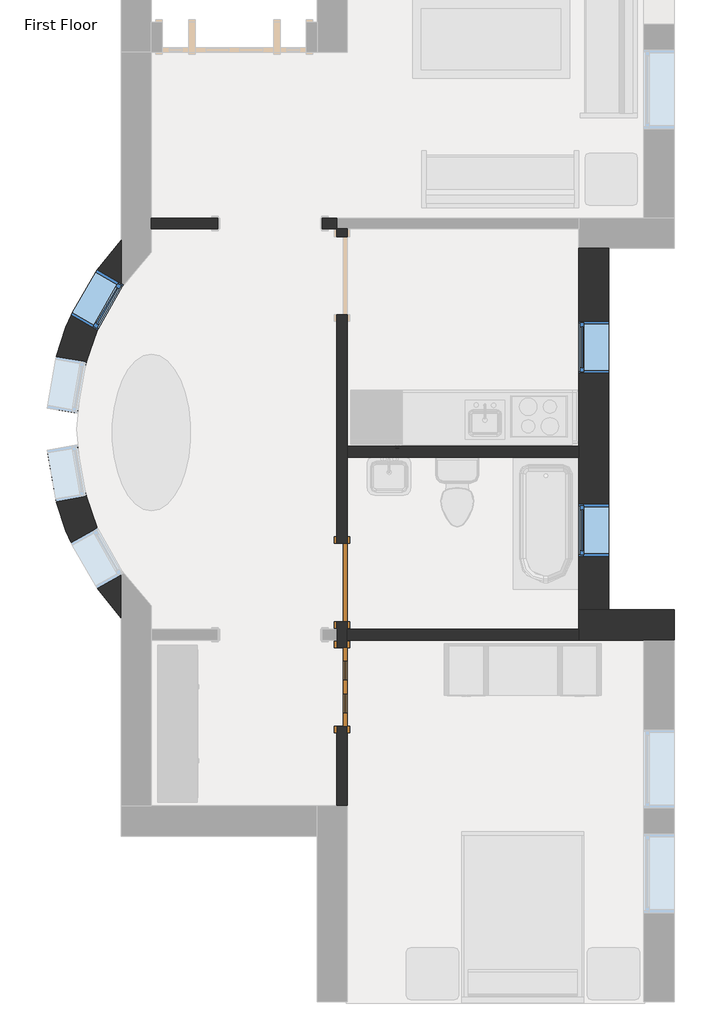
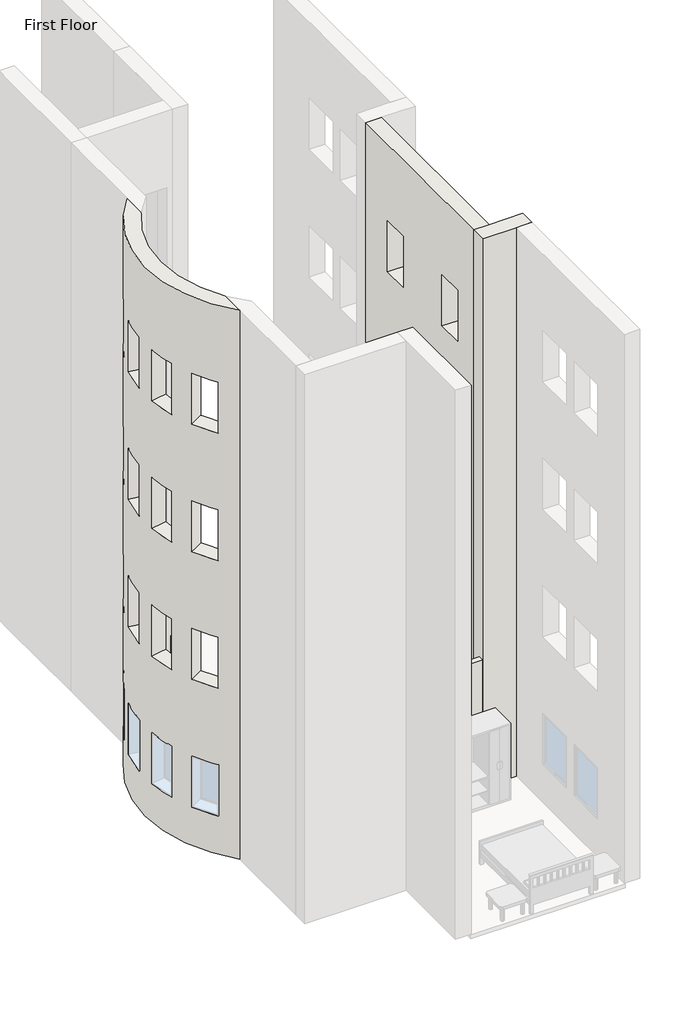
# One storey, part 11 of 21: 7 walls, 3 windows, 2 doors.
"""IFC4 building model written with IfcOpenShell, lengths in millimetres."""

from ifc_helpers import new_model, si_unit, frame, origin, origin_with_axes, place, context, project, spatial, polyline, circle_curve, outline, extrude, faceted_brep, transform, mapped, element, save
from ifc_brep_helpers import plane_surface, cylinder_surface, revolved_surface, advanced_brep
from components import door_829da954, door_a1797ceb, window_60baf983, window_ed80354a

model = new_model("IFC4")

# Units and contexts
model_context = context("Model", 3, world=origin())
ifc_project = project(units=[si_unit("LENGTHUNIT", "METRE", prefix="MILLI")], contexts=[model_context])

# Site, building, storey
site = spatial("IfcSite", under=ifc_project)
building = spatial("IfcBuilding", under=site)
storey = spatial("IfcBuildingStorey", under=building, Name="First Floor", Elevation=0.0)

# Doors
placement = place(None, origin())
door_shape = door_829da954(model_context)
element("IfcDoor", 1, ObjectType="Single-Decorative 2 : 36\" x 84\"", at=placement, inside=storey, context=model_context, shape_type="MappedRepresentation", body=[
    mapped(door_shape, transform((-3900.4589563, -7995.7558133, 0.0), x_axis=(0.0, 1.0, 0.0), y_axis=(-1.0, 0.0, 0.0), z_axis=(0.0, 0.0, 1.0))),
])
door_2_shape = door_a1797ceb(model_context)
element("IfcDoor", 2, ObjectType="Single-Flush : 36\" x 84\"", at=placement, inside=storey, context=model_context, shape_type="MappedRepresentation", body=[
    mapped(door_2_shape, transform((-3900.4589563, -6776.5558133, 0.0), x_axis=(0.0, -1.0, 0.0), y_axis=(1.0, 0.0, 0.0), z_axis=(0.0, 0.0, 1.0))),
])

# Walls
element("IfcWall", 3, ObjectType="Exterior - Brick on Mtl. Stud", at=placement, inside=storey, context=model_context, shape_type="Brep", body=[
    faceted_brep([(-26.9589563, -7097.2308133, 0.0), (-788.9589563, -7097.2308133, 0.0), (-1141.3839563, -7097.2308133, 0.0), (-1141.3839563, -7097.2308133, 13106.4), (-788.9589563, -7097.2308133, 13106.4), (-26.9589563, -7097.2308133, 13106.4), (-26.9589563, -7449.6558133, 0.0), (-26.9589563, -7449.6558133, 13106.4), (-379.3839563, -7449.6558133, 13106.4), (-1141.3839563, -7449.6558133, 13106.4), (-1141.3839563, -7449.6558133, 3048.0), (-1141.3839563, -7449.6558133, 0.0), (-379.3839563, -7449.6558133, 0.0), (-1141.3839563, -7322.6558133, 0.0)], [[[0, 1, 2, 3, 4, 5]], [[6, 7, 8, 9, 10, 11, 12]], [[2, 1, 0, 6, 12, 11, 13]], [[5, 4, 3, 9, 8, 7]], [[0, 5, 7, 6]], [[2, 13, 11, 10, 9, 3]]]),
])
element("IfcWall", 4, ObjectType="Exterior - Brick on Mtl. Stud", at=placement, inside=storey, context=model_context, shape_type="Brep", body=[
    faceted_brep([(-788.9589563, -7097.2308133, 0.0), (-788.9589563, -2877.6558133, 0.0), (-788.9589563, -2877.6558133, 13106.4), (-788.9589563, -7097.2308133, 13106.4), (-788.9589563, -6471.7558133, 8229.6), (-788.9589563, -5862.1558133, 8229.6), (-788.9589563, -5862.1558133, 7010.4), (-788.9589563, -6471.7558133, 7010.4), (-788.9589563, -4338.1558133, 8229.6), (-788.9589563, -3728.5558133, 8229.6), (-788.9589563, -3728.5558133, 7010.4), (-788.9589563, -4338.1558133, 7010.4), (-788.9589563, -6471.7558133, 5181.6), (-788.9589563, -5862.1558133, 5181.6), (-788.9589563, -5862.1558133, 3962.4), (-788.9589563, -6471.7558133, 3962.4), (-788.9589563, -4338.1558133, 5181.6), (-788.9589563, -3728.5558133, 5181.6), (-788.9589563, -3728.5558133, 3962.4), (-788.9589563, -4338.1558133, 3962.4), (-788.9589563, -6471.7558133, 11277.6), (-788.9589563, -5862.1558133, 11277.6), (-788.9589563, -5862.1558133, 10058.4), (-788.9589563, -6471.7558133, 10058.4), (-788.9589563, -4338.1558133, 11277.6), (-788.9589563, -3728.5558133, 11277.6), (-788.9589563, -3728.5558133, 10058.4), (-788.9589563, -4338.1558133, 10058.4), (-788.9589563, -6471.7558133, 2133.6), (-788.9589563, -5862.1558133, 2133.6), (-788.9589563, -5862.1558133, 914.4), (-788.9589563, -6471.7558133, 914.4), (-788.9589563, -4338.1558133, 2133.6), (-788.9589563, -3728.5558133, 2133.6), (-788.9589563, -3728.5558133, 914.4), (-788.9589563, -4338.1558133, 914.4), (-1141.3839563, -7097.2308133, 0.0), (-1141.3839563, -7097.2308133, 13106.4), (-1141.3839563, -2877.6558133, 13106.4), (-1141.3839563, -2877.6558133, 0.0), (-1141.3839563, -5189.0558133, 0.0), (-1141.3839563, -5316.0558133, 0.0), (-1141.3839563, -6471.7558133, 8229.6), (-1141.3839563, -6471.7558133, 7010.4), (-1141.3839563, -5862.1558133, 7010.4), (-1141.3839563, -5862.1558133, 8229.6), (-1141.3839563, -4338.1558133, 8229.6), (-1141.3839563, -4338.1558133, 7010.4), (-1141.3839563, -3728.5558133, 7010.4), (-1141.3839563, -3728.5558133, 8229.6), (-1141.3839563, -6471.7558133, 5181.6), (-1141.3839563, -6471.7558133, 3962.4), (-1141.3839563, -5862.1558133, 3962.4), (-1141.3839563, -5862.1558133, 5181.6), (-1141.3839563, -4338.1558133, 5181.6), (-1141.3839563, -4338.1558133, 3962.4), (-1141.3839563, -3728.5558133, 3962.4), (-1141.3839563, -3728.5558133, 5181.6), (-1141.3839563, -6471.7558133, 11277.6), (-1141.3839563, -6471.7558133, 10058.4), (-1141.3839563, -5862.1558133, 10058.4), (-1141.3839563, -5862.1558133, 11277.6), (-1141.3839563, -4338.1558133, 11277.6), (-1141.3839563, -4338.1558133, 10058.4), (-1141.3839563, -3728.5558133, 10058.4), (-1141.3839563, -3728.5558133, 11277.6), (-1141.3839563, -6471.7558133, 2133.6), (-1141.3839563, -6471.7558133, 914.4), (-1141.3839563, -5862.1558133, 914.4), (-1141.3839563, -5862.1558133, 2133.6), (-1141.3839563, -4338.1558133, 2133.6), (-1141.3839563, -4338.1558133, 914.4), (-1141.3839563, -3728.5558133, 914.4), (-1141.3839563, -3728.5558133, 2133.6)], [[[0, 1, 2, 3], [4, 5, 6, 7], [8, 9, 10, 11], [12, 13, 14, 15], [16, 17, 18, 19], [20, 21, 22, 23], [24, 25, 26, 27], [28, 29, 30, 31], [32, 33, 34, 35]], [[36, 37, 38, 39, 40, 41], [42, 43, 44, 45], [46, 47, 48, 49], [50, 51, 52, 53], [54, 55, 56, 57], [58, 59, 60, 61], [62, 63, 64, 65], [66, 67, 68, 69], [70, 71, 72, 73]], [[1, 0, 36, 41, 40, 39]], [[3, 2, 38, 37]], [[0, 3, 37, 36]], [[2, 1, 39, 38]], [[43, 42, 4, 7]], [[44, 43, 7, 6]], [[45, 44, 6, 5]], [[42, 45, 5, 4]], [[47, 46, 8, 11]], [[48, 47, 11, 10]], [[49, 48, 10, 9]], [[46, 49, 9, 8]], [[51, 50, 12, 15]], [[52, 51, 15, 14]], [[53, 52, 14, 13]], [[50, 53, 13, 12]], [[55, 54, 16, 19]], [[56, 55, 19, 18]], [[57, 56, 18, 17]], [[54, 57, 17, 16]], [[59, 58, 20, 23]], [[60, 59, 23, 22]], [[61, 60, 22, 21]], [[58, 61, 21, 20]], [[63, 62, 24, 27]], [[64, 63, 27, 26]], [[65, 64, 26, 25]], [[62, 65, 25, 24]], [[67, 66, 28, 31]], [[68, 67, 31, 30]], [[69, 68, 30, 29]], [[66, 69, 29, 28]], [[71, 70, 32, 35]], [[72, 71, 35, 34]], [[73, 72, 34, 33]], [[70, 73, 33, 32]]]),
])
element("IfcWall", 5, ObjectType="Exterior - Brick on Mtl. Stud", at=placement, inside=storey, context=model_context, shape_type="AdvancedBrep", body=[
    advanced_brep(
    [(-6475.3839563, -2783.0580793, 13106.4), (-6475.3839563, -7191.8285473, 13106.4), (-6475.3839563, -6633.9339631, 13106.4), (-6475.3839563, -3340.9526635, 13106.4), (-6475.3839563, -7191.8285473, 0.0), (-6475.3839563, -2783.0580793, 0.0), (-6475.3839563, -3340.9526635, 0.0), (-6475.3839563, -6633.9339631, 0.0), (-7060.4709271, -6315.4726656, 914.4), (-7060.4709271, -6315.4726656, 2133.6), (-6757.9928429, -6844.7355195, 2133.6), (-6757.9928429, -6844.7355195, 914.4), (-7060.4709271, -3659.4139611, 2133.6), (-7060.4709271, -3659.4139611, 914.4), (-6757.9928429, -3130.1511071, 914.4), (-6757.9928429, -3130.1511071, 2133.6), (-7060.4709271, -6315.4726656, 10058.4), (-7060.4709271, -6315.4726656, 11277.6), (-6757.9928429, -6844.7355195, 11277.6), (-6757.9928429, -6844.7355195, 10058.4), (-7060.4709271, -3659.4139611, 11277.6), (-7060.4709271, -3659.4139611, 10058.4), (-6757.9928429, -3130.1511071, 10058.4), (-6757.9928429, -3130.1511071, 11277.6), (-7060.4709271, -6315.4726656, 3962.4), (-7060.4709271, -6315.4726656, 5181.6), (-6757.9928429, -6844.7355195, 5181.6), (-6757.9928429, -6844.7355195, 3962.4), (-7060.4709271, -3659.4139611, 5181.6), (-7060.4709271, -3659.4139611, 3962.4), (-6757.9928429, -3130.1511071, 3962.4), (-6757.9928429, -3130.1511071, 5181.6), (-7060.4709271, -6315.4726656, 7010.4), (-7060.4709271, -6315.4726656, 8229.6), (-6757.9928429, -6844.7355195, 8229.6), (-6757.9928429, -6844.7355195, 7010.4), (-7060.4709271, -3659.4139611, 8229.6), (-7060.4709271, -3659.4139611, 7010.4), (-6757.9928429, -3130.1511071, 7010.4), (-6757.9928429, -3130.1511071, 8229.6), (-7337.3984091, -4743.0185836, 8229.6), (-7337.3984091, -4743.0185836, 7010.4), (-7233.9296032, -4142.2637532, 7010.4), (-7233.9296032, -4142.2637532, 8229.6), (-7337.3984091, -5231.8680431, 8229.6), (-7233.9296032, -5832.6228734, 8229.6), (-7233.9296032, -5832.6228734, 7010.4), (-7337.3984091, -5231.8680431, 7010.4), (-7337.3984091, -4743.0185836, 5181.6), (-7337.3984091, -4743.0185836, 3962.4), (-7233.9296032, -4142.2637532, 3962.4), (-7233.9296032, -4142.2637532, 5181.6), (-7337.3984091, -5231.8680431, 5181.6), (-7233.9296032, -5832.6228734, 5181.6), (-7233.9296032, -5832.6228734, 3962.4), (-7337.3984091, -5231.8680431, 3962.4), (-7337.3984091, -4743.0185836, 11277.6), (-7337.3984091, -4743.0185836, 10058.4), (-7233.9296032, -4142.2637532, 10058.4), (-7233.9296032, -4142.2637532, 11277.6), (-7337.3984091, -5231.8680431, 11277.6), (-7233.9296032, -5832.6228734, 11277.6), (-7233.9296032, -5832.6228734, 10058.4), (-7337.3984091, -5231.8680431, 10058.4), (-7337.3984091, -4743.0185836, 2133.6), (-7337.3984091, -4743.0185836, 914.4), (-7233.9296032, -4142.2637532, 914.4), (-7233.9296032, -4142.2637532, 2133.6), (-7337.3984091, -5231.8680431, 2133.6), (-7233.9296032, -5832.6228734, 2133.6), (-7233.9296032, -5832.6228734, 914.4), (-7337.3984091, -5231.8680431, 914.4), (-6475.3839563, -6633.9339631, 11277.6), (-6752.944107, -6139.7185526, 11277.6), (-6752.944107, -6139.7185526, 10058.4), (-6475.3839563, -6633.9339631, 10058.4), (-6475.3839563, -6633.9339631, 8229.6), (-6752.944107, -6139.7185526, 8229.6), (-6752.944107, -6139.7185526, 7010.4), (-6475.3839563, -6633.9339631, 7010.4), (-6475.3839563, -6633.9339631, 5181.6), (-6752.944107, -6139.7185526, 5181.6), (-6752.944107, -6139.7185526, 3962.4), (-6475.3839563, -6633.9339631, 3962.4), (-6475.3839563, -6633.9339631, 2133.6), (-6752.944107, -6139.7185526, 2133.6), (-6752.944107, -6139.7185526, 914.4), (-6475.3839563, -6633.9339631, 914.4), (-6475.3839563, -3340.9526635, 914.4), (-6752.944107, -3835.168074, 914.4), (-6752.944107, -3835.168074, 2133.6), (-6475.3839563, -3340.9526635, 2133.6), (-6475.3839563, -3340.9526635, 3962.4), (-6752.944107, -3835.168074, 3962.4), (-6752.944107, -3835.168074, 5181.6), (-6475.3839563, -3340.9526635, 5181.6), (-6475.3839563, -3340.9526635, 7010.4), (-6752.944107, -3835.168074, 7010.4), (-6752.944107, -3835.168074, 8229.6), (-6475.3839563, -3340.9526635, 8229.6), (-6475.3839563, -3340.9526635, 10058.4), (-6752.944107, -3835.168074, 10058.4), (-6752.944107, -3835.168074, 11277.6), (-6475.3839563, -3340.9526635, 11277.6), (-6988.33136, -4803.1388671, 8229.6), (-6884.862554, -4202.3840368, 8229.6), (-6884.862554, -4202.3840368, 7010.4), (-6988.33136, -4803.1388671, 7010.4), (-6988.33136, -5171.7477595, 8229.6), (-6988.33136, -5171.7477595, 7010.4), (-6884.862554, -5772.5025899, 7010.4), (-6884.862554, -5772.5025899, 8229.6), (-6988.33136, -4803.1388671, 5181.6), (-6884.862554, -4202.3840368, 5181.6), (-6884.862554, -4202.3840368, 3962.4), (-6988.33136, -4803.1388671, 3962.4), (-6988.33136, -5171.7477595, 5181.6), (-6988.33136, -5171.7477595, 3962.4), (-6884.862554, -5772.5025899, 3962.4), (-6884.862554, -5772.5025899, 5181.6), (-6988.33136, -4803.1388671, 11277.6), (-6884.862554, -4202.3840368, 11277.6), (-6884.862554, -4202.3840368, 10058.4), (-6988.33136, -4803.1388671, 10058.4), (-6988.33136, -5171.7477595, 11277.6), (-6988.33136, -5171.7477595, 10058.4), (-6884.862554, -5772.5025899, 10058.4), (-6884.862554, -5772.5025899, 11277.6), (-6988.33136, -4803.1388671, 2133.6), (-6884.862554, -4202.3840368, 2133.6), (-6884.862554, -4202.3840368, 914.4), (-6988.33136, -4803.1388671, 914.4), (-6988.33136, -5171.7477595, 2133.6), (-6988.33136, -5171.7477595, 914.4), (-6884.862554, -5772.5025899, 914.4), (-6884.862554, -5772.5025899, 2133.6), (-6475.3839563, -3291.6644156, 11277.6), (-6475.3839563, -3291.6644156, 10058.4), (-6475.3839563, -3291.6644156, 8229.6), (-6475.3839563, -3291.6644156, 7010.4), (-6475.3839563, -3291.6644156, 5181.6), (-6475.3839563, -3291.6644156, 3962.4), (-6475.3839563, -3291.6644156, 2133.6), (-6475.3839563, -3291.6644156, 914.4), (-6475.3839563, -6683.222211, 914.4), (-6475.3839563, -6683.222211, 2133.6), (-6475.3839563, -6683.222211, 3962.4), (-6475.3839563, -6683.222211, 5181.6), (-6475.3839563, -6683.222211, 7010.4), (-6475.3839563, -6683.222211, 8229.6), (-6475.3839563, -6683.222211, 10058.4), (-6475.3839563, -6683.222211, 11277.6)],
    [
        (0, 1, circle_curve(frame((-4122.4640713, -4987.4433133, 13106.4), z_axis=(0.0, 0.0, 1.0), x_axis=(0.0, 1.0, 0.0)), 3224.2125)),
        (1, 2),
        (2, 3, circle_curve(frame((-4122.4640713, -4987.4433133, 13106.4), z_axis=(0.0, 0.0, -1.0), x_axis=(0.0, 1.0, 0.0)), 2871.7875)),
        (3, 0),
        (4, 5, circle_curve(frame((-4122.4640713, -4987.4433133, 0.0), z_axis=(0.0, 0.0, -1.0), x_axis=(0.0, 1.0, 0.0)), 3224.2125)),
        (5, 6),
        (6, 7, circle_curve(frame((-4122.4640713, -4987.4433133, 0.0), z_axis=(0.0, 0.0, 1.0), x_axis=(0.0, 1.0, 0.0)), 2871.7875)),
        (7, 4),
        (0, 5),
        (4, 1),
        (8, 9),
        (9, 10, circle_curve(frame((-4122.4640713, -4987.4433133, 2133.6), z_axis=(0.0, 0.0, 1.0), x_axis=(0.0, 1.0, 0.0)), 3224.2125)),
        (10, 11),
        (11, 8, circle_curve(frame((-4122.4640713, -4987.4433133, 914.4), z_axis=(0.0, 0.0, -1.0), x_axis=(0.0, 1.0, 0.0)), 3224.2125)),
        (12, 13),
        (13, 14, circle_curve(frame((-4122.4640713, -4987.4433133, 914.4), z_axis=(0.0, 0.0, -1.0), x_axis=(0.0, 1.0, 0.0)), 3224.2125)),
        (14, 15),
        (15, 12, circle_curve(frame((-4122.4640713, -4987.4433133, 2133.6), z_axis=(0.0, 0.0, 1.0), x_axis=(0.0, 1.0, 0.0)), 3224.2125)),
        (16, 17),
        (17, 18, circle_curve(frame((-4122.4640713, -4987.4433133, 11277.6), z_axis=(0.0, 0.0, 1.0), x_axis=(0.0, 1.0, 0.0)), 3224.2125)),
        (18, 19),
        (19, 16, circle_curve(frame((-4122.4640713, -4987.4433133, 10058.4), z_axis=(0.0, 0.0, -1.0), x_axis=(0.0, 1.0, 0.0)), 3224.2125)),
        (20, 21),
        (21, 22, circle_curve(frame((-4122.4640713, -4987.4433133, 10058.4), z_axis=(0.0, 0.0, -1.0), x_axis=(0.0, 1.0, 0.0)), 3224.2125)),
        (22, 23),
        (23, 20, circle_curve(frame((-4122.4640713, -4987.4433133, 11277.6), z_axis=(0.0, 0.0, 1.0), x_axis=(0.0, 1.0, 0.0)), 3224.2125)),
        (24, 25),
        (25, 26, circle_curve(frame((-4122.4640713, -4987.4433133, 5181.6), z_axis=(0.0, 0.0, 1.0), x_axis=(0.0, 1.0, 0.0)), 3224.2125)),
        (26, 27),
        (27, 24, circle_curve(frame((-4122.4640713, -4987.4433133, 3962.4), z_axis=(0.0, 0.0, -1.0), x_axis=(0.0, 1.0, 0.0)), 3224.2125)),
        (28, 29),
        (29, 30, circle_curve(frame((-4122.4640713, -4987.4433133, 3962.4), z_axis=(0.0, 0.0, -1.0), x_axis=(0.0, 1.0, 0.0)), 3224.2125)),
        (30, 31),
        (31, 28, circle_curve(frame((-4122.4640713, -4987.4433133, 5181.6), z_axis=(0.0, 0.0, 1.0), x_axis=(0.0, 1.0, 0.0)), 3224.2125)),
        (32, 33),
        (33, 34, circle_curve(frame((-4122.4640713, -4987.4433133, 8229.6), z_axis=(0.0, 0.0, 1.0), x_axis=(0.0, 1.0, 0.0)), 3224.2125)),
        (34, 35),
        (35, 32, circle_curve(frame((-4122.4640713, -4987.4433133, 7010.4), z_axis=(0.0, 0.0, -1.0), x_axis=(0.0, 1.0, 0.0)), 3224.2125)),
        (36, 37),
        (37, 38, circle_curve(frame((-4122.4640713, -4987.4433133, 7010.4), z_axis=(0.0, 0.0, -1.0), x_axis=(0.0, 1.0, 0.0)), 3224.2125)),
        (38, 39),
        (39, 36, circle_curve(frame((-4122.4640713, -4987.4433133, 8229.6), z_axis=(0.0, 0.0, 1.0), x_axis=(0.0, 1.0, 0.0)), 3224.2125)),
        (40, 41),
        (41, 42, circle_curve(frame((-4122.4640713, -4987.4433133, 7010.4), z_axis=(0.0, 0.0, -1.0), x_axis=(0.0, 1.0, 0.0)), 3224.2125)),
        (42, 43),
        (43, 40, circle_curve(frame((-4122.4640713, -4987.4433133, 8229.6), z_axis=(0.0, 0.0, 1.0), x_axis=(0.0, 1.0, 0.0)), 3224.2125)),
        (44, 45, circle_curve(frame((-4122.4640713, -4987.4433133, 8229.6), z_axis=(0.0, 0.0, 1.0), x_axis=(0.0, 1.0, 0.0)), 3224.2125)),
        (45, 46),
        (46, 47, circle_curve(frame((-4122.4640713, -4987.4433133, 7010.4), z_axis=(0.0, 0.0, -1.0), x_axis=(0.0, 1.0, 0.0)), 3224.2125)),
        (47, 44),
        (48, 49),
        (49, 50, circle_curve(frame((-4122.4640713, -4987.4433133, 3962.4), z_axis=(0.0, 0.0, -1.0), x_axis=(0.0, 1.0, 0.0)), 3224.2125)),
        (50, 51),
        (51, 48, circle_curve(frame((-4122.4640713, -4987.4433133, 5181.6), z_axis=(0.0, 0.0, 1.0), x_axis=(0.0, 1.0, 0.0)), 3224.2125)),
        (52, 53, circle_curve(frame((-4122.4640713, -4987.4433133, 5181.6), z_axis=(0.0, 0.0, 1.0), x_axis=(0.0, 1.0, 0.0)), 3224.2125)),
        (53, 54),
        (54, 55, circle_curve(frame((-4122.4640713, -4987.4433133, 3962.4), z_axis=(0.0, 0.0, -1.0), x_axis=(0.0, 1.0, 0.0)), 3224.2125)),
        (55, 52),
        (56, 57),
        (57, 58, circle_curve(frame((-4122.4640713, -4987.4433133, 10058.4), z_axis=(0.0, 0.0, -1.0), x_axis=(0.0, 1.0, 0.0)), 3224.2125)),
        (58, 59),
        (59, 56, circle_curve(frame((-4122.4640713, -4987.4433133, 11277.6), z_axis=(0.0, 0.0, 1.0), x_axis=(0.0, 1.0, 0.0)), 3224.2125)),
        (60, 61, circle_curve(frame((-4122.4640713, -4987.4433133, 11277.6), z_axis=(0.0, 0.0, 1.0), x_axis=(0.0, 1.0, 0.0)), 3224.2125)),
        (61, 62),
        (62, 63, circle_curve(frame((-4122.4640713, -4987.4433133, 10058.4), z_axis=(0.0, 0.0, -1.0), x_axis=(0.0, 1.0, 0.0)), 3224.2125)),
        (63, 60),
        (64, 65),
        (65, 66, circle_curve(frame((-4122.4640713, -4987.4433133, 914.4), z_axis=(0.0, 0.0, -1.0), x_axis=(0.0, 1.0, 0.0)), 3224.2125)),
        (66, 67),
        (67, 64, circle_curve(frame((-4122.4640713, -4987.4433133, 2133.6), z_axis=(0.0, 0.0, 1.0), x_axis=(0.0, 1.0, 0.0)), 3224.2125)),
        (68, 69, circle_curve(frame((-4122.4640713, -4987.4433133, 2133.6), z_axis=(0.0, 0.0, 1.0), x_axis=(0.0, 1.0, 0.0)), 3224.2125)),
        (69, 70),
        (70, 71, circle_curve(frame((-4122.4640713, -4987.4433133, 914.4), z_axis=(0.0, 0.0, -1.0), x_axis=(0.0, 1.0, 0.0)), 3224.2125)),
        (71, 68),
        (2, 72),
        (72, 73, circle_curve(frame((-4122.4640713, -4987.4433133, 11277.6), z_axis=(0.0, 0.0, -1.0), x_axis=(0.0, 1.0, 0.0)), 2871.7875)),
        (73, 74),
        (74, 75, circle_curve(frame((-4122.4640713, -4987.4433133, 10058.4), z_axis=(0.0, 0.0, 1.0), x_axis=(0.0, 1.0, 0.0)), 2871.7875)),
        (75, 76),
        (76, 77, circle_curve(frame((-4122.4640713, -4987.4433133, 8229.6), z_axis=(0.0, 0.0, -1.0), x_axis=(0.0, 1.0, 0.0)), 2871.7875)),
        (77, 78),
        (78, 79, circle_curve(frame((-4122.4640713, -4987.4433133, 7010.4), z_axis=(0.0, 0.0, 1.0), x_axis=(0.0, 1.0, 0.0)), 2871.7875)),
        (79, 80),
        (80, 81, circle_curve(frame((-4122.4640713, -4987.4433133, 5181.6), z_axis=(0.0, 0.0, -1.0), x_axis=(0.0, 1.0, 0.0)), 2871.7875)),
        (81, 82),
        (82, 83, circle_curve(frame((-4122.4640713, -4987.4433133, 3962.4), z_axis=(0.0, 0.0, 1.0), x_axis=(0.0, 1.0, 0.0)), 2871.7875)),
        (83, 84),
        (84, 85, circle_curve(frame((-4122.4640713, -4987.4433133, 2133.6), z_axis=(0.0, 0.0, -1.0), x_axis=(0.0, 1.0, 0.0)), 2871.7875)),
        (85, 86),
        (86, 87, circle_curve(frame((-4122.4640713, -4987.4433133, 914.4), z_axis=(0.0, 0.0, 1.0), x_axis=(0.0, 1.0, 0.0)), 2871.7875)),
        (87, 7),
        (6, 88),
        (88, 89, circle_curve(frame((-4122.4640713, -4987.4433133, 914.4), z_axis=(0.0, 0.0, 1.0), x_axis=(0.0, 1.0, 0.0)), 2871.7875)),
        (89, 90),
        (90, 91, circle_curve(frame((-4122.4640713, -4987.4433133, 2133.6), z_axis=(0.0, 0.0, -1.0), x_axis=(0.0, 1.0, 0.0)), 2871.7875)),
        (91, 92),
        (92, 93, circle_curve(frame((-4122.4640713, -4987.4433133, 3962.4), z_axis=(0.0, 0.0, 1.0), x_axis=(0.0, 1.0, 0.0)), 2871.7875)),
        (93, 94),
        (94, 95, circle_curve(frame((-4122.4640713, -4987.4433133, 5181.6), z_axis=(0.0, 0.0, -1.0), x_axis=(0.0, 1.0, 0.0)), 2871.7875)),
        (95, 96),
        (96, 97, circle_curve(frame((-4122.4640713, -4987.4433133, 7010.4), z_axis=(0.0, 0.0, 1.0), x_axis=(0.0, 1.0, 0.0)), 2871.7875)),
        (97, 98),
        (98, 99, circle_curve(frame((-4122.4640713, -4987.4433133, 8229.6), z_axis=(0.0, 0.0, -1.0), x_axis=(0.0, 1.0, 0.0)), 2871.7875)),
        (99, 100),
        (100, 101, circle_curve(frame((-4122.4640713, -4987.4433133, 10058.4), z_axis=(0.0, 0.0, 1.0), x_axis=(0.0, 1.0, 0.0)), 2871.7875)),
        (101, 102),
        (102, 103, circle_curve(frame((-4122.4640713, -4987.4433133, 11277.6), z_axis=(0.0, 0.0, -1.0), x_axis=(0.0, 1.0, 0.0)), 2871.7875)),
        (103, 3),
        (104, 105, circle_curve(frame((-4122.4640713, -4987.4433133, 8229.6), z_axis=(0.0, 0.0, -1.0), x_axis=(0.0, 1.0, 0.0)), 2871.7875)),
        (105, 106),
        (106, 107, circle_curve(frame((-4122.4640713, -4987.4433133, 7010.4), z_axis=(0.0, 0.0, 1.0), x_axis=(0.0, 1.0, 0.0)), 2871.7875)),
        (107, 104),
        (108, 109),
        (109, 110, circle_curve(frame((-4122.4640713, -4987.4433133, 7010.4), z_axis=(0.0, 0.0, 1.0), x_axis=(0.0, 1.0, 0.0)), 2871.7875)),
        (110, 111),
        (111, 108, circle_curve(frame((-4122.4640713, -4987.4433133, 8229.6), z_axis=(0.0, 0.0, -1.0), x_axis=(0.0, 1.0, 0.0)), 2871.7875)),
        (112, 113, circle_curve(frame((-4122.4640713, -4987.4433133, 5181.6), z_axis=(0.0, 0.0, -1.0), x_axis=(0.0, 1.0, 0.0)), 2871.7875)),
        (113, 114),
        (114, 115, circle_curve(frame((-4122.4640713, -4987.4433133, 3962.4), z_axis=(0.0, 0.0, 1.0), x_axis=(0.0, 1.0, 0.0)), 2871.7875)),
        (115, 112),
        (116, 117),
        (117, 118, circle_curve(frame((-4122.4640713, -4987.4433133, 3962.4), z_axis=(0.0, 0.0, 1.0), x_axis=(0.0, 1.0, 0.0)), 2871.7875)),
        (118, 119),
        (119, 116, circle_curve(frame((-4122.4640713, -4987.4433133, 5181.6), z_axis=(0.0, 0.0, -1.0), x_axis=(0.0, 1.0, 0.0)), 2871.7875)),
        (120, 121, circle_curve(frame((-4122.4640713, -4987.4433133, 11277.6), z_axis=(0.0, 0.0, -1.0), x_axis=(0.0, 1.0, 0.0)), 2871.7875)),
        (121, 122),
        (122, 123, circle_curve(frame((-4122.4640713, -4987.4433133, 10058.4), z_axis=(0.0, 0.0, 1.0), x_axis=(0.0, 1.0, 0.0)), 2871.7875)),
        (123, 120),
        (124, 125),
        (125, 126, circle_curve(frame((-4122.4640713, -4987.4433133, 10058.4), z_axis=(0.0, 0.0, 1.0), x_axis=(0.0, 1.0, 0.0)), 2871.7875)),
        (126, 127),
        (127, 124, circle_curve(frame((-4122.4640713, -4987.4433133, 11277.6), z_axis=(0.0, 0.0, -1.0), x_axis=(0.0, 1.0, 0.0)), 2871.7875)),
        (128, 129, circle_curve(frame((-4122.4640713, -4987.4433133, 2133.6), z_axis=(0.0, 0.0, -1.0), x_axis=(0.0, 1.0, 0.0)), 2871.7875)),
        (129, 130),
        (130, 131, circle_curve(frame((-4122.4640713, -4987.4433133, 914.4), z_axis=(0.0, 0.0, 1.0), x_axis=(0.0, 1.0, 0.0)), 2871.7875)),
        (131, 128),
        (132, 133),
        (133, 134, circle_curve(frame((-4122.4640713, -4987.4433133, 914.4), z_axis=(0.0, 0.0, 1.0), x_axis=(0.0, 1.0, 0.0)), 2871.7875)),
        (134, 135),
        (135, 132, circle_curve(frame((-4122.4640713, -4987.4433133, 2133.6), z_axis=(0.0, 0.0, -1.0), x_axis=(0.0, 1.0, 0.0)), 2871.7875)),
        (103, 136),
        (136, 137),
        (137, 100),
        (99, 138),
        (138, 139),
        (139, 96),
        (95, 140),
        (140, 141),
        (141, 92),
        (91, 142),
        (142, 143),
        (143, 88),
        (87, 144),
        (144, 145),
        (145, 84),
        (83, 146),
        (146, 147),
        (147, 80),
        (79, 148),
        (148, 149),
        (149, 76),
        (75, 150),
        (150, 151),
        (151, 72),
        (85, 9),
        (8, 86),
        (11, 144),
        (10, 145),
        (12, 90),
        (89, 13),
        (143, 14),
        (142, 15),
        (73, 17),
        (16, 74),
        (19, 150),
        (18, 151),
        (20, 102),
        (101, 21),
        (137, 22),
        (136, 23),
        (81, 25),
        (24, 82),
        (27, 146),
        (26, 147),
        (28, 94),
        (93, 29),
        (141, 30),
        (140, 31),
        (77, 33),
        (32, 78),
        (35, 148),
        (34, 149),
        (36, 98),
        (97, 37),
        (139, 38),
        (138, 39),
        (40, 104),
        (107, 41),
        (106, 42),
        (105, 43),
        (108, 44),
        (47, 109),
        (46, 110),
        (45, 111),
        (48, 112),
        (115, 49),
        (114, 50),
        (113, 51),
        (116, 52),
        (55, 117),
        (54, 118),
        (53, 119),
        (56, 120),
        (123, 57),
        (122, 58),
        (121, 59),
        (124, 60),
        (63, 125),
        (62, 126),
        (61, 127),
        (64, 128),
        (131, 65),
        (130, 66),
        (129, 67),
        (132, 68),
        (71, 133),
        (70, 134),
        (69, 135),
    ],
    [
        plane_surface(frame((-4122.4640713, -1763.2308133, 13106.4), z_axis=(0.0, 0.0, 1.0), x_axis=(-1.0, 0.0, 0.0))),
        plane_surface(frame((-4122.4640713, -1763.2308133, 0.0), z_axis=(0.0, 0.0, -1.0), x_axis=(1.0, 0.0, 0.0))),
        cylinder_surface(frame((-4122.4640713, -4987.4433133, 0.0), z_axis=(0.0, 0.0, 1.0), x_axis=(0.0, 1.0, 0.0)), 3224.2125),
        revolved_surface(polyline([(-4122.4640713, -2115.6558133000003, 0.0), (-4122.4640713, -2115.6558133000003, 13106.4)]), (-4122.4640713, -4987.4433133, 0.0), (0.0, 0.0, -1.0)),
        plane_surface(frame((-6475.3839563, -415.4433133, 0.0), z_axis=(1.0, 0.0, 0.0), x_axis=(0.0, -1.0, 0.0))),
        plane_surface(frame((-6475.3839563, -9559.4433133, 0.0), z_axis=(1.0, 0.0, 0.0), x_axis=(0.0, -1.0, 0.0))),
        plane_surface(frame((-8383.628062, -7071.6678761, 2133.6), z_axis=(0.49619108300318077, -0.8682133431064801, 0.0), x_axis=(0.8682133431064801, 0.49619108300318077, 0.0))),
        plane_surface(frame((-8383.628062, -7071.6678761, 914.4), z_axis=(0.0, 0.0, 1.0), x_axis=(0.8682133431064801, 0.49619108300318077, 0.0))),
        plane_surface(frame((-8081.1499778, -7600.93073, 914.4), z_axis=(-0.49619108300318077, 0.8682133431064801, 0.0), x_axis=(0.8682133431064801, 0.49619108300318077, 0.0))),
        plane_surface(frame((-8081.1499778, -7600.93073, 2133.6), z_axis=(0.0, 0.0, -1.0), x_axis=(0.8682133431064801, 0.49619108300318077, 0.0))),
        plane_surface(frame((-5737.3137922, -4415.6091716, 2133.6), z_axis=(0.4961910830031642, 0.8682133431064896, 0.0), x_axis=(-0.8682133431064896, 0.4961910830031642, 0.0))),
        plane_surface(frame((-5737.3137922, -4415.6091716, 914.4), z_axis=(0.0, 0.0, 1.0), x_axis=(-0.8682133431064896, 0.4961910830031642, 0.0))),
        plane_surface(frame((-5434.835708, -3886.3463176, 914.4), z_axis=(-0.49619108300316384, -0.8682133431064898, 0.0), x_axis=(-0.8682133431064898, 0.49619108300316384, 0.0))),
        plane_surface(frame((-5434.835708, -3886.3463176, 2133.6), z_axis=(0.0, 0.0, -1.0), x_axis=(-0.8682133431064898, 0.49619108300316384, 0.0))),
        plane_surface(frame((-8383.628062, -7071.6678761, 11277.6), z_axis=(0.4961910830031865, -0.8682133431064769, 0.0), x_axis=(0.8682133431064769, 0.4961910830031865, 0.0))),
        plane_surface(frame((-8383.628062, -7071.6678761, 10058.4), z_axis=(0.0, 0.0, 1.0), x_axis=(0.8682133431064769, 0.4961910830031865, 0.0))),
        plane_surface(frame((-8081.1499778, -7600.93073, 10058.4), z_axis=(-0.4961910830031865, 0.8682133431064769, 0.0), x_axis=(0.8682133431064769, 0.4961910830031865, 0.0))),
        plane_surface(frame((-8081.1499778, -7600.93073, 11277.6), z_axis=(0.0, 0.0, -1.0), x_axis=(0.8682133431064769, 0.4961910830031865, 0.0))),
        plane_surface(frame((-5737.3137922, -4415.6091716, 11277.6), z_axis=(0.4961910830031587, 0.8682133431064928, 0.0), x_axis=(-0.8682133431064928, 0.4961910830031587, 0.0))),
        plane_surface(frame((-5737.3137922, -4415.6091716, 10058.4), z_axis=(0.0, 0.0, 1.0), x_axis=(-0.8682133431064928, 0.4961910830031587, 0.0))),
        plane_surface(frame((-5434.835708, -3886.3463176, 10058.4), z_axis=(-0.4961910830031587, -0.8682133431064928, 0.0), x_axis=(-0.8682133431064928, 0.4961910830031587, 0.0))),
        plane_surface(frame((-5434.835708, -3886.3463176, 11277.6), z_axis=(0.0, 0.0, -1.0), x_axis=(-0.8682133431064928, 0.4961910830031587, 0.0))),
        plane_surface(frame((-8383.628062, -7071.6678761, 5181.6), z_axis=(0.4961910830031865, -0.8682133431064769, 0.0), x_axis=(0.8682133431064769, 0.4961910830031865, 0.0))),
        plane_surface(frame((-8383.628062, -7071.6678761, 3962.4), z_axis=(0.0, 0.0, 1.0), x_axis=(0.8682133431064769, 0.4961910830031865, 0.0))),
        plane_surface(frame((-8081.1499778, -7600.93073, 3962.4), z_axis=(-0.4961910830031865, 0.8682133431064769, 0.0), x_axis=(0.8682133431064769, 0.4961910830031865, 0.0))),
        plane_surface(frame((-8081.1499778, -7600.93073, 5181.6), z_axis=(0.0, 0.0, -1.0), x_axis=(0.8682133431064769, 0.4961910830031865, 0.0))),
        plane_surface(frame((-5737.3137922, -4415.6091716, 5181.6), z_axis=(0.4961910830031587, 0.8682133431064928, 0.0), x_axis=(-0.8682133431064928, 0.4961910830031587, 0.0))),
        plane_surface(frame((-5737.3137922, -4415.6091716, 3962.4), z_axis=(0.0, 0.0, 1.0), x_axis=(-0.8682133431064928, 0.4961910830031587, 0.0))),
        plane_surface(frame((-5434.835708, -3886.3463176, 3962.4), z_axis=(-0.4961910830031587, -0.8682133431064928, 0.0), x_axis=(-0.8682133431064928, 0.4961910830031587, 0.0))),
        plane_surface(frame((-5434.835708, -3886.3463176, 5181.6), z_axis=(0.0, 0.0, -1.0), x_axis=(-0.8682133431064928, 0.4961910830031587, 0.0))),
        plane_surface(frame((-8383.628062, -7071.6678761, 8229.6), z_axis=(0.4961910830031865, -0.8682133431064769, 0.0), x_axis=(0.8682133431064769, 0.4961910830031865, 0.0))),
        plane_surface(frame((-8383.628062, -7071.6678761, 7010.4), z_axis=(0.0, 0.0, 1.0), x_axis=(0.8682133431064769, 0.4961910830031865, 0.0))),
        plane_surface(frame((-8081.1499778, -7600.93073, 7010.4), z_axis=(-0.4961910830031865, 0.8682133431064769, 0.0), x_axis=(0.8682133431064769, 0.4961910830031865, 0.0))),
        plane_surface(frame((-8081.1499778, -7600.93073, 8229.6), z_axis=(0.0, 0.0, -1.0), x_axis=(0.8682133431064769, 0.4961910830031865, 0.0))),
        plane_surface(frame((-5737.3137922, -4415.6091716, 8229.6), z_axis=(0.4961910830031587, 0.8682133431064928, 0.0), x_axis=(-0.8682133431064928, 0.4961910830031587, 0.0))),
        plane_surface(frame((-5737.3137922, -4415.6091716, 7010.4), z_axis=(0.0, 0.0, 1.0), x_axis=(-0.8682133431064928, 0.4961910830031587, 0.0))),
        plane_surface(frame((-5434.835708, -3886.3463176, 7010.4), z_axis=(-0.4961910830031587, -0.8682133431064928, 0.0), x_axis=(-0.8682133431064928, 0.4961910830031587, 0.0))),
        plane_surface(frame((-5434.835708, -3886.3463176, 8229.6), z_axis=(0.0, 0.0, -1.0), x_axis=(-0.8682133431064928, 0.4961910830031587, 0.0))),
        plane_surface(frame((-7337.3984091, -4743.0185836, 8229.6), z_axis=(0.1697322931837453, 0.9854902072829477, 0.0), x_axis=(0.9854902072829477, -0.1697322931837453, 0.0))),
        plane_surface(frame((-7337.3984091, -4743.0185836, 7010.4), z_axis=(0.0, 0.0, 1.0000000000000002), x_axis=(0.9854902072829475, -0.1697322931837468, 0.0))),
        plane_surface(frame((-7233.9296032, -4142.2637532, 7010.4), z_axis=(-0.16973229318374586, -0.9854902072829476, 0.0), x_axis=(0.9854902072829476, -0.16973229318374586, 0.0))),
        plane_surface(frame((-7233.9296032, -4142.2637532, 8229.6), z_axis=(0.0, 0.0, -1.0), x_axis=(0.9854902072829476, -0.16973229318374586, 0.0))),
        plane_surface(frame((-6988.33136, -5171.7477595, 8229.6), z_axis=(0.16973229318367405, -0.98549020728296, 0.0), x_axis=(-0.98549020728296, -0.16973229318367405, 0.0))),
        plane_surface(frame((-6988.33136, -5171.7477595, 7010.4), z_axis=(0.0, 0.0, 1.0), x_axis=(-0.9854902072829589, -0.16973229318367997, 0.0))),
        plane_surface(frame((-6884.862554, -5772.5025899, 7010.4), z_axis=(-0.1697322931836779, 0.9854902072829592, 0.0), x_axis=(-0.9854902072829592, -0.1697322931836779, 0.0))),
        plane_surface(frame((-6884.862554, -5772.5025899, 8229.6), z_axis=(0.0, 0.0, -1.0), x_axis=(-0.9854902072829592, -0.1697322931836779, 0.0))),
        plane_surface(frame((-7337.3984091, -4743.0185836, 5181.6), z_axis=(0.1697322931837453, 0.9854902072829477, 0.0), x_axis=(0.9854902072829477, -0.1697322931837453, 0.0))),
        plane_surface(frame((-7337.3984091, -4743.0185836, 3962.4), z_axis=(0.0, 0.0, 1.0000000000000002), x_axis=(0.9854902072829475, -0.1697322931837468, 0.0))),
        plane_surface(frame((-7233.9296032, -4142.2637532, 3962.4), z_axis=(-0.16973229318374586, -0.9854902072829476, 0.0), x_axis=(0.9854902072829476, -0.16973229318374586, 0.0))),
        plane_surface(frame((-7233.9296032, -4142.2637532, 5181.6), z_axis=(0.0, 0.0, -1.0), x_axis=(0.9854902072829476, -0.16973229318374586, 0.0))),
        plane_surface(frame((-6988.33136, -5171.7477595, 5181.6), z_axis=(0.16973229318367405, -0.98549020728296, 0.0), x_axis=(-0.98549020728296, -0.16973229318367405, 0.0))),
        plane_surface(frame((-6988.33136, -5171.7477595, 3962.4), z_axis=(0.0, 0.0, 1.0), x_axis=(-0.9854902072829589, -0.16973229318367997, 0.0))),
        plane_surface(frame((-6884.862554, -5772.5025899, 3962.4), z_axis=(-0.1697322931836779, 0.9854902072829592, 0.0), x_axis=(-0.9854902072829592, -0.1697322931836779, 0.0))),
        plane_surface(frame((-6884.862554, -5772.5025899, 5181.6), z_axis=(0.0, 0.0, -1.0), x_axis=(-0.9854902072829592, -0.1697322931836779, 0.0))),
        plane_surface(frame((-7337.3984091, -4743.0185836, 11277.6), z_axis=(0.1697322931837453, 0.9854902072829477, 0.0), x_axis=(0.9854902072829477, -0.1697322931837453, 0.0))),
        plane_surface(frame((-7337.3984091, -4743.0185836, 10058.4), z_axis=(0.0, 0.0, 1.0000000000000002), x_axis=(0.9854902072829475, -0.1697322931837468, 0.0))),
        plane_surface(frame((-7233.9296032, -4142.2637532, 10058.4), z_axis=(-0.16973229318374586, -0.9854902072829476, 0.0), x_axis=(0.9854902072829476, -0.16973229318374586, 0.0))),
        plane_surface(frame((-7233.9296032, -4142.2637532, 11277.6), z_axis=(0.0, 0.0, -1.0), x_axis=(0.9854902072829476, -0.16973229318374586, 0.0))),
        plane_surface(frame((-6988.33136, -5171.7477595, 11277.6), z_axis=(0.16973229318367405, -0.98549020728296, 0.0), x_axis=(-0.98549020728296, -0.16973229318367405, 0.0))),
        plane_surface(frame((-6988.33136, -5171.7477595, 10058.4), z_axis=(0.0, 0.0, 1.0), x_axis=(-0.9854902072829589, -0.16973229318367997, 0.0))),
        plane_surface(frame((-6884.862554, -5772.5025899, 10058.4), z_axis=(-0.1697322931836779, 0.9854902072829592, 0.0), x_axis=(-0.9854902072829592, -0.1697322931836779, 0.0))),
        plane_surface(frame((-6884.862554, -5772.5025899, 11277.6), z_axis=(0.0, 0.0, -1.0), x_axis=(-0.9854902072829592, -0.1697322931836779, 0.0))),
        plane_surface(frame((-7337.3984091, -4743.0185836, 2133.6), z_axis=(0.16973229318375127, 0.9854902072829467, 0.0), x_axis=(0.9854902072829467, -0.16973229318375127, 0.0))),
        plane_surface(frame((-7337.3984091, -4743.0185836, 914.4), z_axis=(0.0, 0.0, 1.0), x_axis=(0.9854902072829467, -0.16973229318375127, 0.0))),
        plane_surface(frame((-7233.9296032, -4142.2637532, 914.4), z_axis=(-0.16973229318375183, -0.9854902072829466, 0.0), x_axis=(0.9854902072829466, -0.16973229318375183, 0.0))),
        plane_surface(frame((-7233.9296032, -4142.2637532, 2133.6), z_axis=(0.0, 0.0, -1.0), x_axis=(0.9854902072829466, -0.16973229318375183, 0.0))),
        plane_surface(frame((-6988.33136, -5171.7477595, 2133.6), z_axis=(0.16973229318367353, -0.98549020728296, 0.0), x_axis=(-0.98549020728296, -0.16973229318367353, 0.0))),
        plane_surface(frame((-6988.33136, -5171.7477595, 914.4), z_axis=(0.0, 0.0, 1.0), x_axis=(-0.98549020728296, -0.16973229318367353, 0.0))),
        plane_surface(frame((-6884.862554, -5772.5025899, 914.4), z_axis=(-0.169732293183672, 0.9854902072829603, 0.0), x_axis=(-0.9854902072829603, -0.169732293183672, 0.0))),
        plane_surface(frame((-6884.862554, -5772.5025899, 2133.6), z_axis=(0.0, 0.0, -1.0), x_axis=(-0.9854902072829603, -0.169732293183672, 0.0))),
    ],
    [
        (0, [[1, 2, 3, 4]]),
        (1, [[5, 6, 7, 8]]),
        (2, [[-1, 9, -5, 10], [11, 12, 13, 14], [15, 16, 17, 18], [19, 20, 21, 22], [23, 24, 25, 26], [27, 28, 29, 30], [31, 32, 33, 34], [35, 36, 37, 38], [39, 40, 41, 42], [43, 44, 45, 46], [47, 48, 49, 50], [51, 52, 53, 54], [55, 56, 57, 58], [59, 60, 61, 62], [63, 64, 65, 66], [67, 68, 69, 70], [71, 72, 73, 74]]),
        (3, [[-3, 75, 76, 77, 78, 79, 80, 81, 82, 83, 84, 85, 86, 87, 88, 89, 90, 91, -7, 92, 93, 94, 95, 96, 97, 98, 99, 100, 101, 102, 103, 104, 105, 106, 107, 108], [109, 110, 111, 112], [113, 114, 115, 116], [117, 118, 119, 120], [121, 122, 123, 124], [125, 126, 127, 128], [129, 130, 131, 132], [133, 134, 135, 136], [137, 138, 139, 140]]),
        (4, [[-4, -108, 141, 142, 143, -104, 144, 145, 146, -100, 147, 148, 149, -96, 150, 151, 152, -92, -6, -9]]),
        (5, [[-2, -10, -8, -91, 153, 154, 155, -87, 156, 157, 158, -83, 159, 160, 161, -79, 162, 163, 164, -75]]),
        (6, [[165, -11, 166, -89]]),
        (7, [[-166, -14, 167, -153, -90]]),
        (8, [[-167, -13, 168, -154]]),
        (9, [[-165, -88, -155, -168, -12]]),
        (10, [[169, -94, 170, -15]]),
        (11, [[-170, -93, -152, 171, -16]]),
        (12, [[-171, -151, 172, -17]]),
        (13, [[-169, -18, -172, -150, -95]]),
        (14, [[173, -19, 174, -77]]),
        (15, [[-174, -22, 175, -162, -78]]),
        (16, [[-175, -21, 176, -163]]),
        (17, [[-173, -76, -164, -176, -20]]),
        (18, [[177, -106, 178, -23]]),
        (19, [[-178, -105, -143, 179, -24]]),
        (20, [[-179, -142, 180, -25]]),
        (21, [[-177, -26, -180, -141, -107]]),
        (22, [[181, -27, 182, -85]]),
        (23, [[-182, -30, 183, -156, -86]]),
        (24, [[-183, -29, 184, -157]]),
        (25, [[-181, -84, -158, -184, -28]]),
        (26, [[185, -98, 186, -31]]),
        (27, [[-186, -97, -149, 187, -32]]),
        (28, [[-187, -148, 188, -33]]),
        (29, [[-185, -34, -188, -147, -99]]),
        (30, [[189, -35, 190, -81]]),
        (31, [[-190, -38, 191, -159, -82]]),
        (32, [[-191, -37, 192, -160]]),
        (33, [[-189, -80, -161, -192, -36]]),
        (34, [[193, -102, 194, -39]]),
        (35, [[-194, -101, -146, 195, -40]]),
        (36, [[-195, -145, 196, -41]]),
        (37, [[-193, -42, -196, -144, -103]]),
        (38, [[-43, 197, -112, 198]]),
        (39, [[-44, -198, -111, 199]]),
        (40, [[-45, -199, -110, 200]]),
        (41, [[-46, -200, -109, -197]]),
        (42, [[-113, 201, -50, 202]]),
        (43, [[-114, -202, -49, 203]]),
        (44, [[-115, -203, -48, 204]]),
        (45, [[-116, -204, -47, -201]]),
        (46, [[-51, 205, -120, 206]]),
        (47, [[-52, -206, -119, 207]]),
        (48, [[-53, -207, -118, 208]]),
        (49, [[-54, -208, -117, -205]]),
        (50, [[-121, 209, -58, 210]]),
        (51, [[-122, -210, -57, 211]]),
        (52, [[-123, -211, -56, 212]]),
        (53, [[-124, -212, -55, -209]]),
        (54, [[-59, 213, -128, 214]]),
        (55, [[-60, -214, -127, 215]]),
        (56, [[-61, -215, -126, 216]]),
        (57, [[-62, -216, -125, -213]]),
        (58, [[-129, 217, -66, 218]]),
        (59, [[-130, -218, -65, 219]]),
        (60, [[-131, -219, -64, 220]]),
        (61, [[-132, -220, -63, -217]]),
        (62, [[-67, 221, -136, 222]]),
        (63, [[-68, -222, -135, 223]]),
        (64, [[-69, -223, -134, 224]]),
        (65, [[-70, -224, -133, -221]]),
        (66, [[-137, 225, -74, 226]]),
        (67, [[-138, -226, -73, 227]]),
        (68, [[-139, -227, -72, 228]]),
        (69, [[-140, -228, -71, -225]]),
    ],
),
])
element("IfcWall", 6, ObjectType="Interior - 5\" Partition (2-hr)", at=placement, inside=storey, context=model_context, shape_type="Brep", body=[
    faceted_brep([(-3836.9589563, -7538.5558133, 2133.6), (-3836.9589563, -7538.5558133, 0.0), (-3836.9589563, -7449.6558133, 0.0), (-3836.9589563, -7322.6558133, 0.0), (-3836.9589563, -7233.7558133, 0.0), (-3836.9589563, -7233.7558133, 2133.6), (-3836.9589563, -6319.3558133, 2133.6), (-3836.9589563, -6319.3558133, 0.0), (-3836.9589563, -5316.0558133, 0.0), (-3836.9589563, -5189.0558133, 0.0), (-3836.9589563, -3655.5308133, 0.0), (-3836.9589563, -3655.5308133, 2133.6), (-3836.9589563, -2741.1308133, 2133.6), (-3836.9589563, -2741.1308133, 0.0), (-3836.9589563, -2652.2308133, 0.0), (-3836.9589563, -2652.2308133, 3048.0), (-3836.9589563, -5189.0558133, 3048.0), (-3836.9589563, -5316.0558133, 3048.0), (-3836.9589563, -7322.6558133, 3048.0), (-3836.9589563, -7449.6558133, 3048.0), (-3836.9589563, -9383.2308133, 3048.0), (-3836.9589563, -9383.2308133, 0.0), (-3836.9589563, -8452.9558133, 0.0), (-3836.9589563, -8452.9558133, 2133.6), (-3963.9589563, -7233.7558133, 0.0), (-3963.9589563, -7322.6558133, 0.0), (-3963.9589563, -7449.6558133, 0.0), (-3963.9589563, -7538.5558133, 0.0), (-3963.9589563, -7538.5558133, 2133.6), (-3963.9589563, -8452.9558133, 2133.6), (-3963.9589563, -8452.9558133, 0.0), (-3963.9589563, -9383.2308133, 0.0), (-3963.9589563, -9383.2308133, 3048.0), (-3963.9589563, -7449.6558133, 3048.0), (-3963.9589563, -7322.6558133, 3048.0), (-3963.9589563, -2652.2308133, 3048.0), (-3963.9589563, -2652.2308133, 0.0), (-3963.9589563, -2741.1308133, 0.0), (-3963.9589563, -2741.1308133, 2133.6), (-3963.9589563, -3655.5308133, 2133.6), (-3963.9589563, -3655.5308133, 0.0), (-3963.9589563, -6319.3558133, 0.0), (-3963.9589563, -6319.3558133, 2133.6), (-3963.9589563, -7233.7558133, 2133.6)], [[[0, 1, 2, 3, 4, 5, 6, 7, 8, 9, 10, 11, 12, 13, 14, 15, 16, 17, 18, 19, 20, 21, 22, 23]], [[24, 25, 26, 27, 28, 29, 30, 31, 32, 33, 34, 35, 36, 37, 38, 39, 40, 41, 42, 43]], [[14, 13, 37, 36]], [[4, 3, 2, 1, 27, 26, 25, 24]], [[41, 40, 10, 9, 8, 7]], [[22, 21, 31, 30]], [[20, 19, 18, 17, 16, 15, 35, 34, 33, 32]], [[21, 20, 32, 31]], [[15, 14, 36, 35]], [[38, 37, 13, 12]], [[39, 38, 12, 11]], [[40, 39, 11, 10]], [[5, 4, 24, 43]], [[6, 5, 43, 42]], [[7, 6, 42, 41]], [[28, 27, 1, 0]], [[29, 28, 0, 23]], [[30, 29, 23, 22]]]),
])
element("IfcWall", 7, ObjectType="Interior - 5\" Partition (2-hr)", at=placement, inside=storey, context=model_context, shape_type="SweptSolid", body=[
    extrude(outline(polyline([(-3836.9589563, -7322.6558133), (-1141.3839563, -7322.6558133), (-1141.3839563, -7449.6558133), (-3836.9589563, -7449.6558133), (-3836.9589563, -7322.6558133)])), origin_with_axes(), (0.0, 0.0, 1.0), 3048.0),
])
element("IfcWall", 8, ObjectType="Interior - 5\" Partition (2-hr)", at=placement, inside=storey, context=model_context, shape_type="SweptSolid", body=[
    extrude(outline(polyline([(-1141.3839563, -5316.0558133), (-3836.9589563, -5316.0558133), (-3836.9589563, -5189.0558133), (-1141.3839563, -5189.0558133), (-1141.3839563, -5316.0558133)])), origin_with_axes(), (0.0, 0.0, 1.0), 3048.0),
])
element("IfcWall", 9, ObjectType="Interior - 5\" Partition (2-hr)", at=placement, inside=storey, context=model_context, shape_type="SweptSolid", body=[
    extrude(outline(polyline([(2133.6, -4129.0589563), (0.0, -4129.0589563), (0.0, -3963.9589563), (3048.0, -3963.9589563), (3048.0, -6122.9589563), (0.0, -6122.9589563), (0.0, -5348.2589563), (2133.6, -5348.2589563), (2133.6, -4129.0589563)])), frame((0.0, -2652.2308133, 0.0), z_axis=(0.0, 1.0, 0.0), x_axis=(0.0, 0.0, 1.0)), (0.0, 0.0, 1.0), 127.0),
])

# Windows
window_shape = window_60baf983(model_context)
element("IfcWindow", 10, ObjectType="Fixed : 24\" x 48\"", at=placement, inside=storey, context=model_context, shape_type="MappedRepresentation", body=[
    mapped(window_shape, transform((-6775.1467215, -3515.2965337, 0.0), x_axis=(-0.4961910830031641, -0.8682133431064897, 0.0), y_axis=(0.8682133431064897, -0.4961910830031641, 0.0), z_axis=(0.0, 0.0, 1.0))),
])
window_2_shape = window_ed80354a(model_context)
element("IfcWindow", 11, ObjectType="Fixed : 24\" x 48\"", at=placement, inside=storey, context=model_context, shape_type="MappedRepresentation", body=[
    mapped(window_2_shape, transform((-965.1714563, -4071.4558133, 0.0), x_axis=(0.0, -1.0, 0.0), y_axis=(1.0, 0.0, 0.0), z_axis=(0.0, 0.0, 1.0))),
])
element("IfcWindow", 12, ObjectType="Fixed : 24\" x 48\"", at=placement, inside=storey, context=model_context, shape_type="MappedRepresentation", body=[
    mapped(window_2_shape, transform((-965.1714563, -6205.0558133, 0.0), x_axis=(0.0, -1.0, 0.0), y_axis=(1.0, 0.0, 0.0), z_axis=(0.0, 0.0, 1.0))),
])

save(model, "model.ifc")
